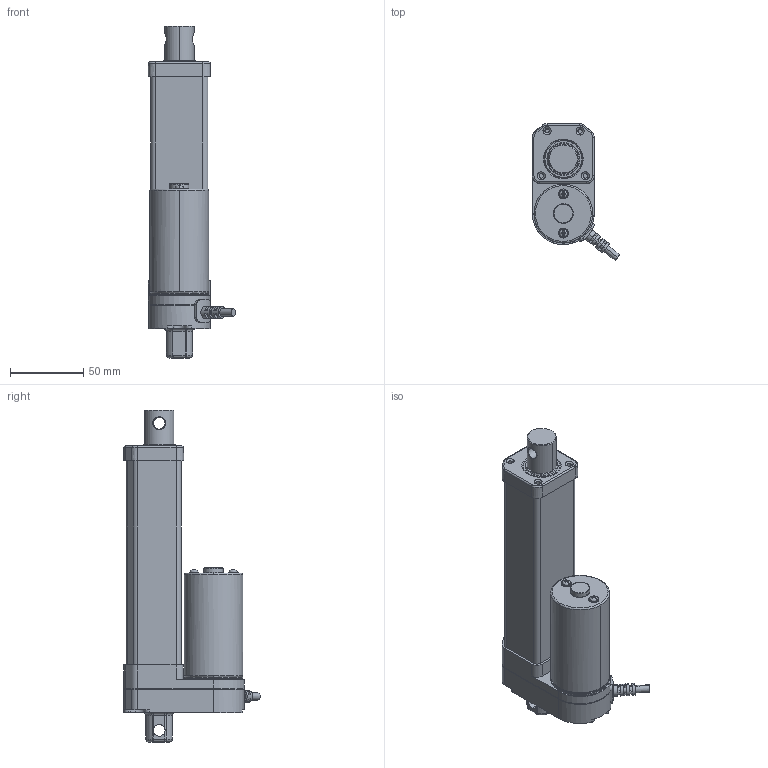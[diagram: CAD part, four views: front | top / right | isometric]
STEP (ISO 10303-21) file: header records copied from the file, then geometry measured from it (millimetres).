
FILE_DESCRIPTION (( 'STEP AP203' ), '1' );
FILE_NAME ('組合件25.STEP', '2016-05-05T03:19:54', ( '' ), ( '' ), 'SwSTEP 2.0', 'SolidWorks 2015', '' );
FILE_SCHEMA (( 'CONFIG_CONTROL_DESIGN' ));
Length unit declared in the file: millimetre
Products named in the file (3): LD36-Body; LD36-tube; 組合件25
Assembly tree (2 placements, depth 2):
  組合件25
    LD36-Body
    LD36-tube
Bounding box: 59.6 x 93.02 x 226 mm (x, y, z)
Volume: 17994.3 mm3; surface area: 91075.2 mm2
Topology: 1 solids, 11 shells, 331 faces, 959 edges, 646 vertices
Faces by surface type: cylinder 134, plane 120, cone 30, bspline 25, torus 18, sphere 4
Entity records: 14656 total; most frequent: CARTESIAN_POINT 5855, DIRECTION 1793, ORIENTED_EDGE 1707, EDGE_CURVE 957, AXIS2_PLACEMENT_3D 675, VERTEX_POINT 646, LINE 443, VECTOR 443
